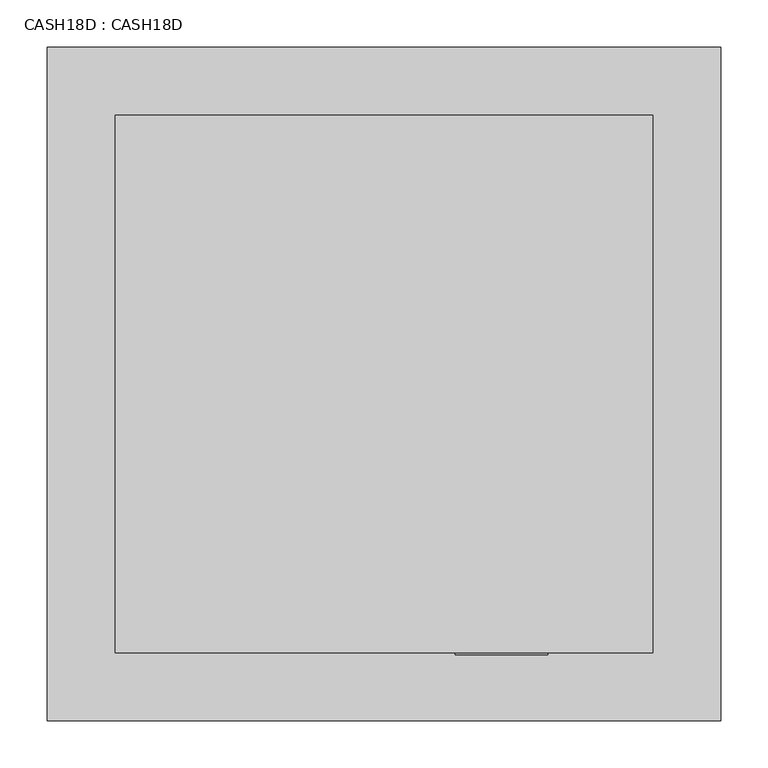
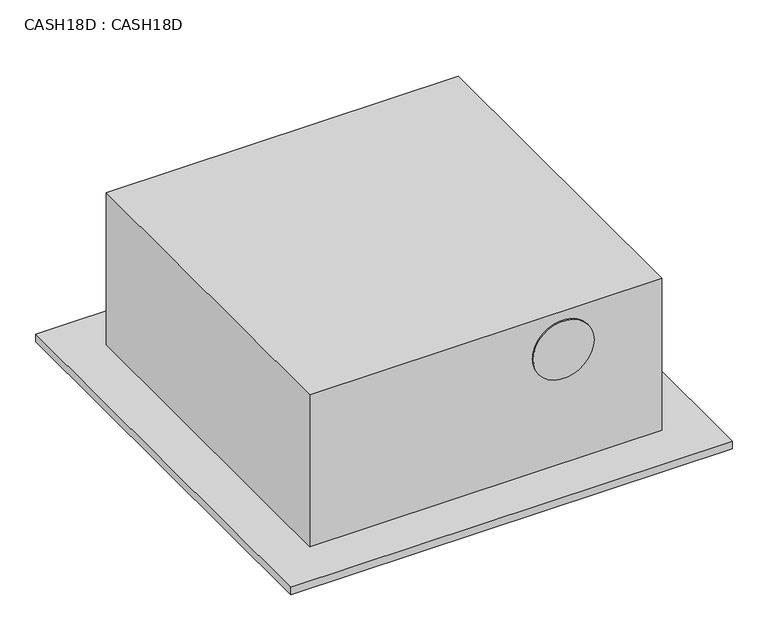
"""IFC4 building model written with IfcOpenShell, lengths in millimetres: proxy geometry, CASH18D : CASH18D."""

from ifc_helpers import new_model, si_unit, point, frame, frame_2d, origin, origin_with_axes, place, context, project, spatial, polyline, circle_curve, trimmed, segment, composite_curve, outline, extrude, source, transform, mapped, element, save


def cash18d_cash18d_723cf2d9(model_context):
    return source(origin(), model_context, "Body", "SweptSolid", [
        extrude(outline(composite_curve([segment(trimmed(circle_curve(frame_2d((195.5607883, 124.61875)), 49.2125), [point((195.5607883, 173.83125))], [point((195.5607883, 75.40625))], False, "CARTESIAN"), True, "CONTINUOUS"), segment(trimmed(circle_curve(frame_2d((195.5607883, 124.61875)), 49.2125), [point((195.5607883, 75.40625))], [point((195.5607883, 173.83125))], False, "CARTESIAN"), True, "CONTINUOUS")], self_intersect=False)), frame((0.0, -287.3375, 0.0), z_axis=(0.0, 1.0, 0.0), x_axis=(0.0, 0.0, 1.0)), (0.0, 0.0, 1.0), 7.9375),
        extrude(outline(polyline([(357.1875, -357.1875), (-357.1875, -357.1875), (-357.1875, 357.1875), (357.1875, 357.1875), (357.1875, -357.1875)])), frame((0.0, 0.0, -12.7), z_axis=(0.0, 0.0, 1.0), x_axis=(1.0, 0.0, 0.0)), (0.0, 0.0, 1.0), 12.7),
        extrude(outline(polyline([(284.95625, -284.95625), (-284.95625, -284.95625), (-284.95625, 284.95625), (284.95625, 284.95625), (284.95625, -284.95625)])), origin_with_axes(), (0.0, 0.0, 1.0), 260.35),
    ])


if __name__ == "__main__":
    model = new_model("IFC4")
    model_context = context("Model", 3, world=origin())
    ifc_project = project(units=[si_unit("LENGTHUNIT", "METRE", prefix="MILLI")], contexts=[model_context])
    site = spatial("IfcSite", under=ifc_project)
    building = spatial("IfcBuilding", under=site)
    placement = place(None, origin())
    cash18d_cash18d_shape = cash18d_cash18d_723cf2d9(model_context)
    element("IfcBuildingElementProxy", 1, Name="CASH18D : CASH18D", ObjectType="CASH18D : CASH18D", at=placement, inside=building, context=model_context, shape_type="MappedRepresentation", body=[
        mapped(cash18d_cash18d_shape, transform((0.0, 0.0, 0.0), x_axis=(1.0, 0.0, 0.0), y_axis=(0.0, 1.0, 0.0), z_axis=(0.0, 0.0, 1.0))),
    ])
    save(model, "model.ifc")
